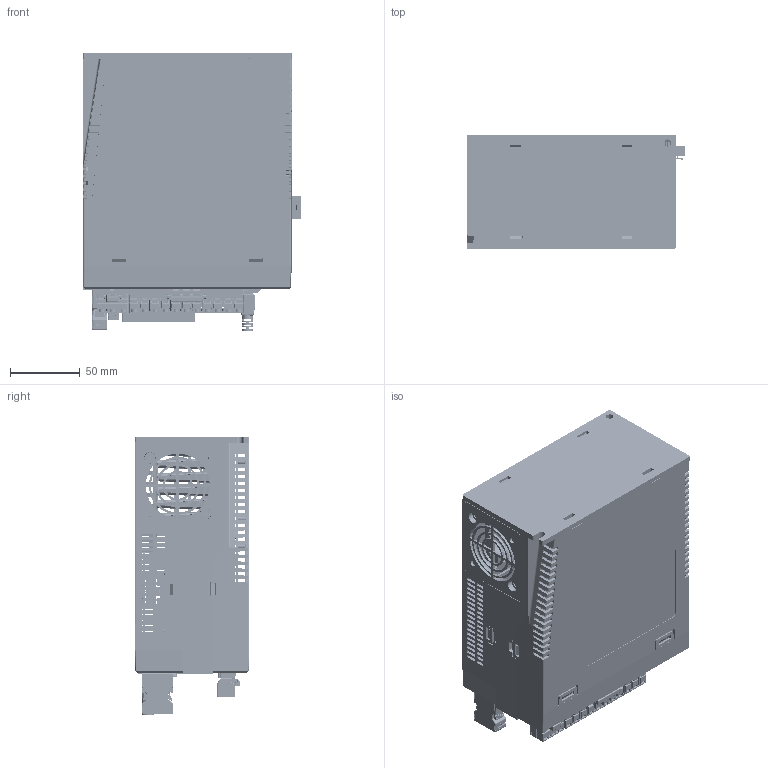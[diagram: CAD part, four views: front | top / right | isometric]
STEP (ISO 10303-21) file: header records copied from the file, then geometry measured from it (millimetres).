
FILE_DESCRIPTION((''),'2;1');
FILE_NAME('PRT0003','2023-08-16T10:48:03',('ms27526'),(''),'CREO PARAMETRIC BY PTC INC, 2018100','CREO PARAMETRIC BY PTC INC, 2018100','');
FILE_SCHEMA(('CONFIG_CONTROL_DESIGN'));
Products named in the file (1): PRT0003
Bounding box: 156.8 x 82 x 199.63 mm (x, y, z)
Volume: 459853.2 mm3; surface area: 448969.6 mm2
Topology: 47 solids, 117 shells, 15102 faces, 42698 edges, 27602 vertices
Faces by surface type: plane 11052, cylinder 3225, cone 382, bspline 195, torus 100, sphere 100, extrusion 48
Entity records: 494668 total; most frequent: CARTESIAN_POINT 101639, ORIENTED_EDGE 84627, DIRECTION 76592, EDGE_CURVE 42556, VECTOR 34024, LINE 33976, VERTEX_POINT 27602, AXIS2_PLACEMENT_3D 21284
